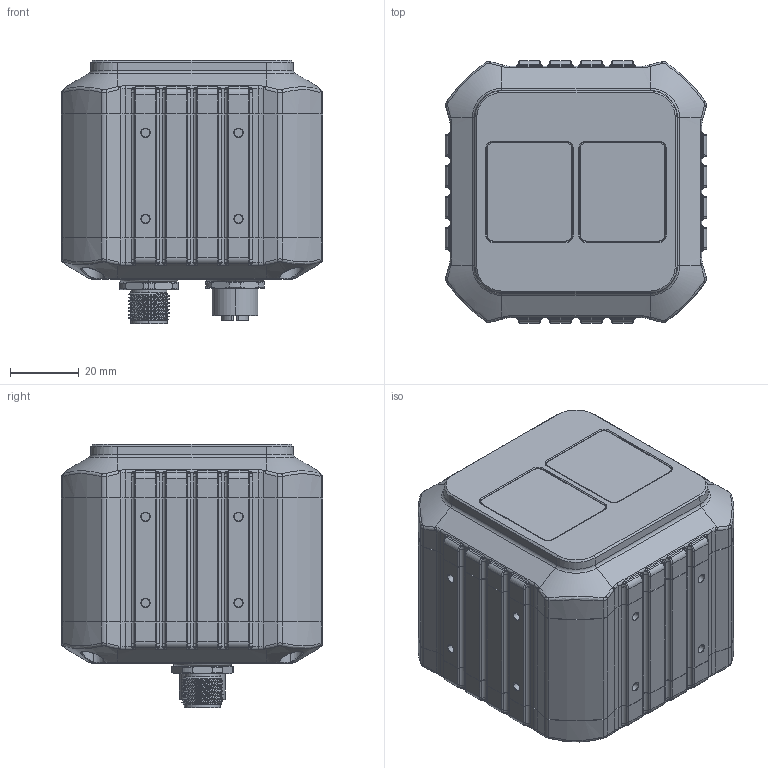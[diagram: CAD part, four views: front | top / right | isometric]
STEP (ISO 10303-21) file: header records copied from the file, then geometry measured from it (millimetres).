
FILE_DESCRIPTION (( 'STEP AP214' ), '1' );
FILE_NAME ('LV D3 Pro.STEP', '2023-09-26T08:38:51', ( '' ), ( '' ), 'SwSTEP 2.0', 'SolidWorks 2020', '' );
FILE_SCHEMA (( 'AUTOMOTIVE_DESIGN' ));
Length unit declared in the file: millimetre
Products named in the file (1): LV D3 Pro
Bounding box: 76 x 76 x 76.4 mm (x, y, z)
Volume: 325313.7 mm3; surface area: 43369.5 mm2
Topology: 28 solids, 29 shells, 3413 faces, 8549 edges, 5308 vertices
Faces by surface type: cylinder 1284, plane 958, bspline 505, cone 411, torus 239, sphere 16
Entity records: 146870 total; most frequent: CARTESIAN_POINT 51995, ORIENTED_EDGE 16918, DIRECTION 15217, EDGE_CURVE 8459, AXIS2_PLACEMENT_3D 6024, VERTEX_POINT 5299, EDGE_LOOP 3656, FACE_OUTER_BOUND 3412
